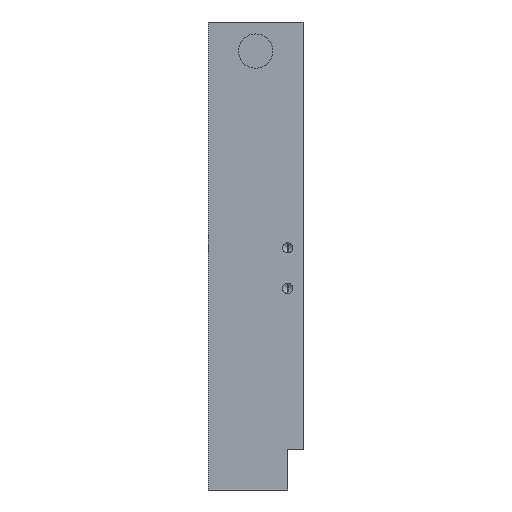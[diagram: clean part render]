
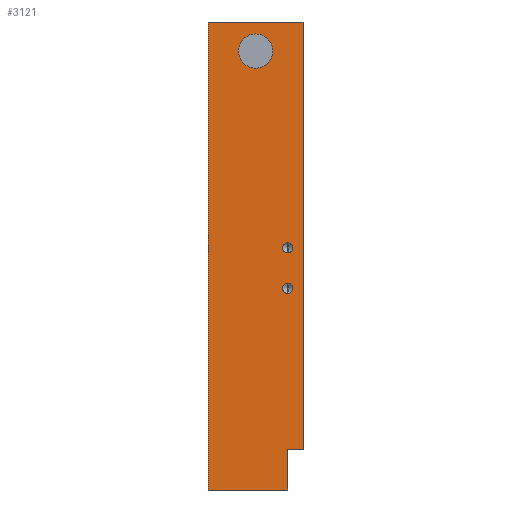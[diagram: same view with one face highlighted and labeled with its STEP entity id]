
A CAD part, left-side view. The second image highlights one B-rep face of the part: STEP entity #3121.
In plain terms, the highlighted planar face has unit normal (-1, 0, 0).
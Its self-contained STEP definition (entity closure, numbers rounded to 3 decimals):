
#25 = VERTEX_POINT ( 'NONE', #846 ) ;
#36 = ORIENTED_EDGE ( 'NONE', *, *, #1954, .F. ) ;
#53 = DIRECTION ( 'NONE',  ( -1., 0., 0. ) ) ;
#70 = LINE ( 'NONE', #3046, #3001 ) ;
#210 = CARTESIAN_POINT ( 'NONE',  ( -164., 4., -58. ) ) ;
#241 = VECTOR ( 'NONE', #1083, 1000. ) ;
#277 = VERTEX_POINT ( 'NONE', #2646 ) ;
#288 = LINE ( 'NONE', #961, #1645 ) ;
#304 = DIRECTION ( 'NONE',  ( 0., -1., 0. ) ) ;
#348 = LINE ( 'NONE', #2792, #241 ) ;
#375 = ORIENTED_EDGE ( 'NONE', *, *, #3458, .F. ) ;
#429 = FACE_BOUND ( 'NONE', #3452, .T. ) ;
#472 = CARTESIAN_POINT ( 'NONE',  ( -164., 4., -8. ) ) ;
#497 = CARTESIAN_POINT ( 'NONE',  ( -164., 11.95, 50.8 ) ) ;
#688 = EDGE_CURVE ( 'NONE', #4258, #721, #70, .T. ) ;
#699 = VERTEX_POINT ( 'NONE', #1647 ) ;
#721 = VERTEX_POINT ( 'NONE', #2705 ) ;
#738 = DIRECTION ( 'NONE',  ( 0., 0., -1. ) ) ;
#752 = VERTEX_POINT ( 'NONE', #4025 ) ;
#787 = VERTEX_POINT ( 'NONE', #1977 ) ;
#818 = LINE ( 'NONE', #1589, #1813 ) ;
#846 = CARTESIAN_POINT ( 'NONE',  ( -164., 4., 3.25 ) ) ;
#853 = EDGE_CURVE ( 'NONE', #752, #25, #4006, .T. ) ;
#888 = FACE_BOUND ( 'NONE', #2990, .T. ) ;
#945 = AXIS2_PLACEMENT_3D ( 'NONE', #4102, #3430, #1997 ) ;
#961 = CARTESIAN_POINT ( 'NONE',  ( -164., 0.2, 58. ) ) ;
#1001 = EDGE_CURVE ( 'NONE', #787, #2546, #1630, .T. ) ;
#1014 = EDGE_CURVE ( 'NONE', #2038, #4258, #3693, .T. ) ;
#1015 = CARTESIAN_POINT ( 'NONE',  ( -164., 23.7, -58. ) ) ;
#1026 = DIRECTION ( 'NONE',  ( 0., 0., -1. ) ) ;
#1062 = CIRCLE ( 'NONE', #2043, 1.25 ) ;
#1083 = DIRECTION ( 'NONE',  ( 0., -1., 0. ) ) ;
#1140 = ORIENTED_EDGE ( 'NONE', *, *, #688, .F. ) ;
#1151 = VECTOR ( 'NONE', #1867, 1000. ) ;
#1183 = CARTESIAN_POINT ( 'NONE',  ( -164., 0., 58. ) ) ;
#1184 = DIRECTION ( 'NONE',  ( 1., 0., 0. ) ) ;
#1186 = CARTESIAN_POINT ( 'NONE',  ( -164., 23.7, 58. ) ) ;
#1232 = PLANE ( 'NONE',  #2573 ) ;
#1334 = ORIENTED_EDGE ( 'NONE', *, *, #2462, .F. ) ;
#1348 = ORIENTED_EDGE ( 'NONE', *, *, #1667, .T. ) ;
#1354 = EDGE_CURVE ( 'NONE', #721, #1753, #288, .T. ) ;
#1394 = DIRECTION ( 'NONE',  ( 0., 0., 1. ) ) ;
#1482 = CIRCLE ( 'NONE', #3599, 1.25 ) ;
#1505 = DIRECTION ( 'NONE',  ( 0., 0., -1. ) ) ;
#1589 = CARTESIAN_POINT ( 'NONE',  ( -164., 4., -58. ) ) ;
#1595 = AXIS2_PLACEMENT_3D ( 'NONE', #497, #1834, #1505 ) ;
#1630 = CIRCLE ( 'NONE', #1595, 4.25 ) ;
#1633 = CARTESIAN_POINT ( 'NONE',  ( -164., 4., -48. ) ) ;
#1645 = VECTOR ( 'NONE', #3389, 1000. ) ;
#1647 = CARTESIAN_POINT ( 'NONE',  ( -164., 4., -9.25 ) ) ;
#1667 = EDGE_CURVE ( 'NONE', #277, #2193, #3033, .T. ) ;
#1753 = VERTEX_POINT ( 'NONE', #3600 ) ;
#1787 = ORIENTED_EDGE ( 'NONE', *, *, #3778, .F. ) ;
#1813 = VECTOR ( 'NONE', #1026, 1000. ) ;
#1818 = VECTOR ( 'NONE', #3970, 1000. ) ;
#1819 = DIRECTION ( 'NONE',  ( 0., 0., 1. ) ) ;
#1834 = DIRECTION ( 'NONE',  ( -1., 0., 0. ) ) ;
#1867 = DIRECTION ( 'NONE',  ( 0., 0., 1. ) ) ;
#1954 = EDGE_CURVE ( 'NONE', #3769, #3106, #818, .T. ) ;
#1977 = CARTESIAN_POINT ( 'NONE',  ( -164., 11.95, 55.05 ) ) ;
#1997 = DIRECTION ( 'NONE',  ( 0., 0., 1. ) ) ;
#2038 = VERTEX_POINT ( 'NONE', #1015 ) ;
#2043 = AXIS2_PLACEMENT_3D ( 'NONE', #2071, #53, #1394 ) ;
#2054 = DIRECTION ( 'NONE',  ( 0., 0., 1. ) ) ;
#2071 = CARTESIAN_POINT ( 'NONE',  ( -164., 4., 2. ) ) ;
#2192 = EDGE_CURVE ( 'NONE', #2038, #3106, #348, .T. ) ;
#2193 = VERTEX_POINT ( 'NONE', #4122 ) ;
#2201 = EDGE_LOOP ( 'NONE', ( #2222, #3501 ) ) ;
#2222 = ORIENTED_EDGE ( 'NONE', *, *, #2433, .F. ) ;
#2253 = EDGE_LOOP ( 'NONE', ( #36, #3133, #1348, #1787, #2368, #1140, #2346, #2555 ) ) ;
#2343 = FACE_BOUND ( 'NONE', #2201, .T. ) ;
#2346 = ORIENTED_EDGE ( 'NONE', *, *, #1014, .F. ) ;
#2351 = CARTESIAN_POINT ( 'NONE',  ( -164., 0.2, 42. ) ) ;
#2368 = ORIENTED_EDGE ( 'NONE', *, *, #1354, .F. ) ;
#2425 = DIRECTION ( 'NONE',  ( -1., 0., 0. ) ) ;
#2433 = EDGE_CURVE ( 'NONE', #25, #752, #1062, .T. ) ;
#2444 = AXIS2_PLACEMENT_3D ( 'NONE', #4108, #2425, #2054 ) ;
#2462 = EDGE_CURVE ( 'NONE', #2977, #699, #1482, .T. ) ;
#2492 = ORIENTED_EDGE ( 'NONE', *, *, #1001, .F. ) ;
#2496 = CARTESIAN_POINT ( 'NONE',  ( -164., 4., -48. ) ) ;
#2517 = VECTOR ( 'NONE', #304, 1000. ) ;
#2545 = DIRECTION ( 'NONE',  ( -1., 0., 0. ) ) ;
#2546 = VERTEX_POINT ( 'NONE', #3218 ) ;
#2555 = ORIENTED_EDGE ( 'NONE', *, *, #2192, .T. ) ;
#2573 = AXIS2_PLACEMENT_3D ( 'NONE', #4287, #1184, #2608 ) ;
#2608 = DIRECTION ( 'NONE',  ( 0., 0., -1. ) ) ;
#2646 = CARTESIAN_POINT ( 'NONE',  ( -164., 0., -48. ) ) ;
#2705 = CARTESIAN_POINT ( 'NONE',  ( -164., 0.2, 58. ) ) ;
#2753 = CIRCLE ( 'NONE', #945, 1.25 ) ;
#2787 = CIRCLE ( 'NONE', #3431, 4.25 ) ;
#2792 = CARTESIAN_POINT ( 'NONE',  ( -164., 23.7, -58. ) ) ;
#2861 = CARTESIAN_POINT ( 'NONE',  ( -164., 4., -6.75 ) ) ;
#2977 = VERTEX_POINT ( 'NONE', #2861 ) ;
#2990 = EDGE_LOOP ( 'NONE', ( #375, #2492 ) ) ;
#3001 = VECTOR ( 'NONE', #3026, 1000. ) ;
#3012 = EDGE_CURVE ( 'NONE', #3769, #277, #4201, .T. ) ;
#3026 = DIRECTION ( 'NONE',  ( 0., -1., 0. ) ) ;
#3033 = LINE ( 'NONE', #1183, #1818 ) ;
#3046 = CARTESIAN_POINT ( 'NONE',  ( -164., 23.7, 58. ) ) ;
#3057 = FACE_OUTER_BOUND ( 'NONE', #2253, .T. ) ;
#3106 = VERTEX_POINT ( 'NONE', #210 ) ;
#3121 = ADVANCED_FACE ( 'NONE', ( #2343, #429, #888, #3057 ), #1232, .F. ) ;
#3133 = ORIENTED_EDGE ( 'NONE', *, *, #3012, .T. ) ;
#3134 = CARTESIAN_POINT ( 'NONE',  ( -164., 11.95, 50.8 ) ) ;
#3218 = CARTESIAN_POINT ( 'NONE',  ( -164., 11.95, 46.55 ) ) ;
#3389 = DIRECTION ( 'NONE',  ( 0., 0., -1. ) ) ;
#3430 = DIRECTION ( 'NONE',  ( -1., 0., 0. ) ) ;
#3431 = AXIS2_PLACEMENT_3D ( 'NONE', #3134, #3455, #738 ) ;
#3452 = EDGE_LOOP ( 'NONE', ( #1334, #3754 ) ) ;
#3455 = DIRECTION ( 'NONE',  ( -1., 0., 0. ) ) ;
#3458 = EDGE_CURVE ( 'NONE', #2546, #787, #2787, .T. ) ;
#3501 = ORIENTED_EDGE ( 'NONE', *, *, #853, .F. ) ;
#3520 = VECTOR ( 'NONE', #4200, 1000. ) ;
#3599 = AXIS2_PLACEMENT_3D ( 'NONE', #472, #2545, #1819 ) ;
#3600 = CARTESIAN_POINT ( 'NONE',  ( -164., 0.2, 42. ) ) ;
#3693 = LINE ( 'NONE', #1186, #1151 ) ;
#3754 = ORIENTED_EDGE ( 'NONE', *, *, #4195, .F. ) ;
#3769 = VERTEX_POINT ( 'NONE', #1633 ) ;
#3778 = EDGE_CURVE ( 'NONE', #1753, #2193, #4319, .T. ) ;
#3970 = DIRECTION ( 'NONE',  ( 0., 0., 1. ) ) ;
#4006 = CIRCLE ( 'NONE', #2444, 1.25 ) ;
#4025 = CARTESIAN_POINT ( 'NONE',  ( -164., 4., 0.75 ) ) ;
#4102 = CARTESIAN_POINT ( 'NONE',  ( -164., 4., -8. ) ) ;
#4108 = CARTESIAN_POINT ( 'NONE',  ( -164., 4., 2. ) ) ;
#4122 = CARTESIAN_POINT ( 'NONE',  ( -164., 0., 42. ) ) ;
#4195 = EDGE_CURVE ( 'NONE', #699, #2977, #2753, .T. ) ;
#4200 = DIRECTION ( 'NONE',  ( 0., -1., 0. ) ) ;
#4201 = LINE ( 'NONE', #2496, #3520 ) ;
#4258 = VERTEX_POINT ( 'NONE', #4402 ) ;
#4287 = CARTESIAN_POINT ( 'NONE',  ( -164., 23.7, 58. ) ) ;
#4319 = LINE ( 'NONE', #2351, #2517 ) ;
#4402 = CARTESIAN_POINT ( 'NONE',  ( -164., 23.7, 58. ) ) ;
